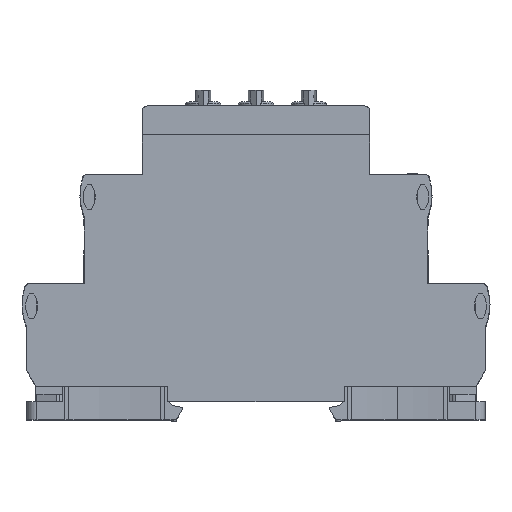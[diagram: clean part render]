
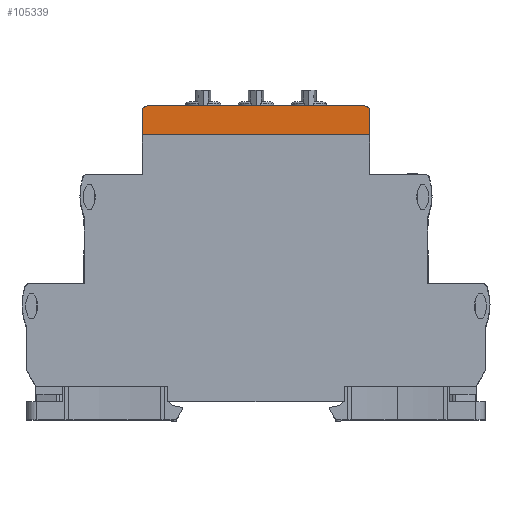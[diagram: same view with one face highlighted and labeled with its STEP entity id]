
A CAD part, top view. The second image highlights one B-rep face of the part: STEP entity #105339.
In plain terms, the highlighted planar face has unit normal (0, 0, 1) as drawn and (1, 0, 0) by its records, which use the part's own axes.
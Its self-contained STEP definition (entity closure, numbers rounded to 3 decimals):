
#1138 = VERTEX_POINT ( 'NONE', #57978 ) ;
#1160 = VERTEX_POINT ( 'NONE', #57947 ) ;
#1174 = VERTEX_POINT ( 'NONE', #57928 ) ;
#2148 = CIRCLE ( 'NONE', #93016, 1. ) ;
#2484 = LINE ( 'NONE', #75740, #2488 ) ;
#2488 = VECTOR ( 'NONE', #75746, 1000. ) ;
#10614 = ORIENTED_EDGE ( 'NONE', *, *, #73648, .F. ) ;
#10615 = ORIENTED_EDGE ( 'NONE', *, *, #74428, .F. ) ;
#10617 = ORIENTED_EDGE ( 'NONE', *, *, #74917, .F. ) ;
#10621 = ORIENTED_EDGE ( 'NONE', *, *, #73127, .F. ) ;
#10665 = ORIENTED_EDGE ( 'NONE', *, *, #72712, .F. ) ;
#10690 = ORIENTED_EDGE ( 'NONE', *, *, #74347, .T. ) ;
#22319 = PLANE ( 'NONE',  #23506 ) ;
#22334 = CARTESIAN_POINT ( 'NONE',  ( 8.875, -22.6, 1.5 ) ) ;
#22336 = DIRECTION ( 'NONE',  ( -1., 0., 0. ) ) ;
#22337 = DIRECTION ( 'NONE',  ( 0., 0., 1. ) ) ;
#23506 = AXIS2_PLACEMENT_3D ( 'NONE', #22334, #22336, #22337 ) ;
#30360 = FACE_OUTER_BOUND ( 'NONE', #113242, .T. ) ;
#30607 = VERTEX_POINT ( 'NONE', #122197 ) ;
#43795 = CARTESIAN_POINT ( 'NONE',  ( 8.875, 22.6, 1. ) ) ;
#54296 = VERTEX_POINT ( 'NONE', #43795 ) ;
#57928 = CARTESIAN_POINT ( 'NONE',  ( 8.875, 22.6, 5.75 ) ) ;
#57947 = CARTESIAN_POINT ( 'NONE',  ( 8.875, -22.6, 5.75 ) ) ;
#57978 = CARTESIAN_POINT ( 'NONE',  ( 8.875, -21.6, 0. ) ) ;
#72712 = EDGE_CURVE ( 'NONE', #1138, #30607, #2148, .T. ) ;
#73127 = EDGE_CURVE ( 'NONE', #30607, #1160, #2484, .T. ) ;
#73178 = CARTESIAN_POINT ( 'NONE',  ( 8.875, -21.6, 1. ) ) ;
#73180 = DIRECTION ( 'NONE',  ( -1., 0., 0. ) ) ;
#73184 = DIRECTION ( 'NONE',  ( 0., 0., -1. ) ) ;
#73648 = EDGE_CURVE ( 'NONE', #54296, #87326, #78011, .T. ) ;
#74347 = EDGE_CURVE ( 'NONE', #1138, #87326, #79215, .T. ) ;
#74428 = EDGE_CURVE ( 'NONE', #1174, #54296, #79360, .T. ) ;
#74917 = EDGE_CURVE ( 'NONE', #1160, #1174, #79842, .T. ) ;
#75740 = CARTESIAN_POINT ( 'NONE',  ( 8.875, -22.6, 1.5 ) ) ;
#75746 = DIRECTION ( 'NONE',  ( 0., 0., 1. ) ) ;
#78011 = CIRCLE ( 'NONE', #93239, 1. ) ;
#79215 = LINE ( 'NONE', #81875, #79229 ) ;
#79229 = VECTOR ( 'NONE', #81892, 1000. ) ;
#79360 = LINE ( 'NONE', #82018, #79368 ) ;
#79368 = VECTOR ( 'NONE', #82021, 1000. ) ;
#79842 = LINE ( 'NONE', #82728, #79846 ) ;
#79846 = VECTOR ( 'NONE', #82701, 1000. ) ;
#80919 = CARTESIAN_POINT ( 'NONE',  ( 8.875, 21.6, 1. ) ) ;
#80921 = DIRECTION ( 'NONE',  ( -1., 0., 0. ) ) ;
#80923 = DIRECTION ( 'NONE',  ( 0., 0., 1. ) ) ;
#81875 = CARTESIAN_POINT ( 'NONE',  ( 8.875, -22.6, 0. ) ) ;
#81892 = DIRECTION ( 'NONE',  ( 0., 1., 0. ) ) ;
#82018 = CARTESIAN_POINT ( 'NONE',  ( 8.875, 22.6, 1.5 ) ) ;
#82021 = DIRECTION ( 'NONE',  ( 0., 0., -1. ) ) ;
#82701 = DIRECTION ( 'NONE',  ( 0., 1., 0. ) ) ;
#82728 = CARTESIAN_POINT ( 'NONE',  ( 8.875, -22.6, 5.75 ) ) ;
#87326 = VERTEX_POINT ( 'NONE', #109983 ) ;
#93016 = AXIS2_PLACEMENT_3D ( 'NONE', #73178, #73180, #73184 ) ;
#93239 = AXIS2_PLACEMENT_3D ( 'NONE', #80919, #80921, #80923 ) ;
#105339 = ADVANCED_FACE ( 'NONE', ( #30360 ), #22319, .F. ) ;
#109983 = CARTESIAN_POINT ( 'NONE',  ( 8.875, 21.6, 0. ) ) ;
#113242 = EDGE_LOOP ( 'NONE', ( #10614, #10615, #10617, #10621, #10665, #10690 ) ) ;
#122197 = CARTESIAN_POINT ( 'NONE',  ( 8.875, -22.6, 1. ) ) ;
